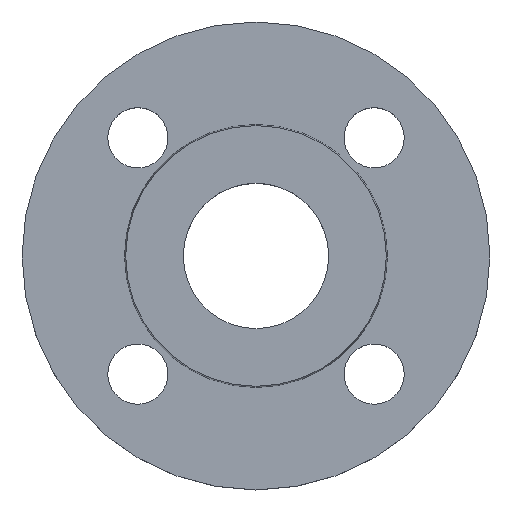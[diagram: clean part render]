
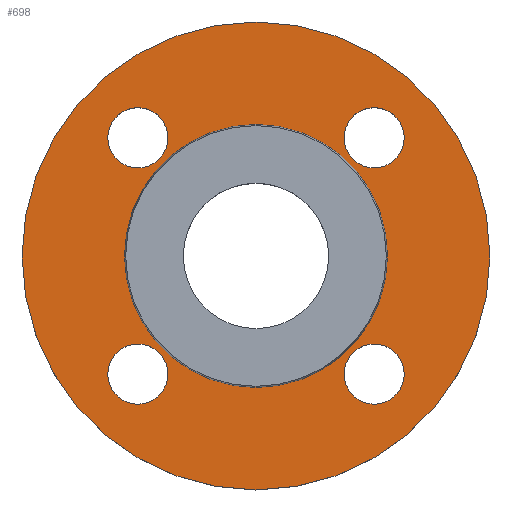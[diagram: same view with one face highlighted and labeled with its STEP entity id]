
A CAD part, top view. The second image highlights one B-rep face of the part: STEP entity #698.
In plain terms, the highlighted planar face has unit normal (0, 0, 1).
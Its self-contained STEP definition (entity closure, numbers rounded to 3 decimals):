
#5 = AXIS2_PLACEMENT_3D ( 'NONE', #682, #180, #395 ) ;
#14 = CIRCLE ( 'NONE', #316, 70. ) ;
#18 = CARTESIAN_POINT ( 'NONE',  ( -35.355, 35.355, -2. ) ) ;
#32 = EDGE_CURVE ( 'NONE', #604, #541, #406, .T. ) ;
#38 = CIRCLE ( 'NONE', #344, 9. ) ;
#39 = DIRECTION ( 'NONE',  ( 1., 0., 0. ) ) ;
#44 = ORIENTED_EDGE ( 'NONE', *, *, #531, .F. ) ;
#50 = CIRCLE ( 'NONE', #352, 9. ) ;
#54 = EDGE_LOOP ( 'NONE', ( #128, #415 ) ) ;
#56 = CARTESIAN_POINT ( 'NONE',  ( 39.353, 0., -2. ) ) ;
#57 = EDGE_CURVE ( 'NONE', #164, #590, #38, .T. ) ;
#66 = VERTEX_POINT ( 'NONE', #518 ) ;
#82 = VERTEX_POINT ( 'NONE', #347 ) ;
#88 = EDGE_LOOP ( 'NONE', ( #217, #396 ) ) ;
#91 = CARTESIAN_POINT ( 'NONE',  ( -44.355, 35.355, -2. ) ) ;
#92 = CARTESIAN_POINT ( 'NONE',  ( 70., 0., -2. ) ) ;
#101 = ORIENTED_EDGE ( 'NONE', *, *, #282, .T. ) ;
#104 = DIRECTION ( 'NONE',  ( -1., 0., 0. ) ) ;
#111 = FACE_BOUND ( 'NONE', #528, .T. ) ;
#119 = CIRCLE ( 'NONE', #426, 39.353 ) ;
#120 = AXIS2_PLACEMENT_3D ( 'NONE', #266, #493, #717 ) ;
#128 = ORIENTED_EDGE ( 'NONE', *, *, #472, .T. ) ;
#130 = DIRECTION ( 'NONE',  ( 0., 0., -1. ) ) ;
#132 = ORIENTED_EDGE ( 'NONE', *, *, #539, .T. ) ;
#138 = ORIENTED_EDGE ( 'NONE', *, *, #643, .T. ) ;
#143 = CARTESIAN_POINT ( 'NONE',  ( 35.355, -35.355, -2. ) ) ;
#144 = VERTEX_POINT ( 'NONE', #91 ) ;
#147 = DIRECTION ( 'NONE',  ( 0., 0., -1. ) ) ;
#149 = EDGE_CURVE ( 'NONE', #82, #66, #317, .T. ) ;
#154 = CARTESIAN_POINT ( 'NONE',  ( -70., 0., -2. ) ) ;
#158 = CARTESIAN_POINT ( 'NONE',  ( -35.355, -35.355, -2. ) ) ;
#162 = FACE_BOUND ( 'NONE', #686, .T. ) ;
#163 = CIRCLE ( 'NONE', #477, 9. ) ;
#164 = VERTEX_POINT ( 'NONE', #362 ) ;
#174 = CARTESIAN_POINT ( 'NONE',  ( 35.355, 35.355, -2. ) ) ;
#180 = DIRECTION ( 'NONE',  ( 0., 0., -1. ) ) ;
#199 = CARTESIAN_POINT ( 'NONE',  ( 0., 0., -2. ) ) ;
#217 = ORIENTED_EDGE ( 'NONE', *, *, #149, .T. ) ;
#228 = EDGE_LOOP ( 'NONE', ( #504, #132 ) ) ;
#232 = AXIS2_PLACEMENT_3D ( 'NONE', #143, #360, #589 ) ;
#233 = AXIS2_PLACEMENT_3D ( 'NONE', #302, #533, #39 ) ;
#235 = CARTESIAN_POINT ( 'NONE',  ( 35.355, -35.355, -2. ) ) ;
#236 = VERTEX_POINT ( 'NONE', #262 ) ;
#237 = DIRECTION ( 'NONE',  ( 0., 0., -1. ) ) ;
#262 = CARTESIAN_POINT ( 'NONE',  ( -26.355, -35.355, -2. ) ) ;
#266 = CARTESIAN_POINT ( 'NONE',  ( 0., 0., -2. ) ) ;
#269 = DIRECTION ( 'NONE',  ( 0., 0., 1. ) ) ;
#282 = EDGE_CURVE ( 'NONE', #301, #444, #527, .T. ) ;
#297 = VERTEX_POINT ( 'NONE', #376 ) ;
#299 = VERTEX_POINT ( 'NONE', #551 ) ;
#301 = VERTEX_POINT ( 'NONE', #497 ) ;
#302 = CARTESIAN_POINT ( 'NONE',  ( 35.355, 35.355, -2. ) ) ;
#316 = AXIS2_PLACEMENT_3D ( 'NONE', #199, #418, #646 ) ;
#317 = CIRCLE ( 'NONE', #233, 9. ) ;
#322 = FACE_OUTER_BOUND ( 'NONE', #616, .T. ) ;
#328 = CIRCLE ( 'NONE', #652, 9. ) ;
#343 = CIRCLE ( 'NONE', #669, 9. ) ;
#344 = AXIS2_PLACEMENT_3D ( 'NONE', #235, #461, #685 ) ;
#346 = DIRECTION ( 'NONE',  ( 1., 0., 0. ) ) ;
#347 = CARTESIAN_POINT ( 'NONE',  ( 44.355, 35.355, -2. ) ) ;
#352 = AXIS2_PLACEMENT_3D ( 'NONE', #649, #147, #363 ) ;
#360 = DIRECTION ( 'NONE',  ( 0., 0., -1. ) ) ;
#362 = CARTESIAN_POINT ( 'NONE',  ( 44.355, -35.355, -2. ) ) ;
#363 = DIRECTION ( 'NONE',  ( 1., 0., 0. ) ) ;
#364 = AXIS2_PLACEMENT_3D ( 'NONE', #56, #269, #498 ) ;
#373 = CARTESIAN_POINT ( 'NONE',  ( 0., 0., -2. ) ) ;
#374 = DIRECTION ( 'NONE',  ( 0., 0., -1. ) ) ;
#376 = CARTESIAN_POINT ( 'NONE',  ( -44.355, -35.355, -2. ) ) ;
#378 = FACE_BOUND ( 'NONE', #54, .T. ) ;
#385 = EDGE_CURVE ( 'NONE', #66, #82, #561, .T. ) ;
#389 = DIRECTION ( 'NONE',  ( 0., 0., -1. ) ) ;
#395 = DIRECTION ( 'NONE',  ( -1., 0., 0. ) ) ;
#396 = ORIENTED_EDGE ( 'NONE', *, *, #385, .T. ) ;
#406 = CIRCLE ( 'NONE', #5, 70. ) ;
#415 = ORIENTED_EDGE ( 'NONE', *, *, #495, .T. ) ;
#418 = DIRECTION ( 'NONE',  ( 0., 0., -1. ) ) ;
#419 = ORIENTED_EDGE ( 'NONE', *, *, #586, .T. ) ;
#426 = AXIS2_PLACEMENT_3D ( 'NONE', #373, #602, #104 ) ;
#444 = VERTEX_POINT ( 'NONE', #572 ) ;
#446 = ORIENTED_EDGE ( 'NONE', *, *, #32, .F. ) ;
#461 = DIRECTION ( 'NONE',  ( 0., 0., -1. ) ) ;
#463 = DIRECTION ( 'NONE',  ( 1., 0., 0. ) ) ;
#472 = EDGE_CURVE ( 'NONE', #299, #144, #343, .T. ) ;
#477 = AXIS2_PLACEMENT_3D ( 'NONE', #631, #130, #346 ) ;
#493 = DIRECTION ( 'NONE',  ( 0., 0., -1. ) ) ;
#495 = EDGE_CURVE ( 'NONE', #144, #299, #163, .T. ) ;
#497 = CARTESIAN_POINT ( 'NONE',  ( 39.353, 0., -2. ) ) ;
#498 = DIRECTION ( 'NONE',  ( 1., 0., 0. ) ) ;
#499 = ORIENTED_EDGE ( 'NONE', *, *, #665, .T. ) ;
#504 = ORIENTED_EDGE ( 'NONE', *, *, #57, .T. ) ;
#518 = CARTESIAN_POINT ( 'NONE',  ( 26.355, 35.355, -2. ) ) ;
#527 = CIRCLE ( 'NONE', #120, 39.353 ) ;
#528 = EDGE_LOOP ( 'NONE', ( #138, #101 ) ) ;
#531 = EDGE_CURVE ( 'NONE', #541, #604, #14, .T. ) ;
#533 = DIRECTION ( 'NONE',  ( 0., 0., -1. ) ) ;
#539 = EDGE_CURVE ( 'NONE', #590, #164, #641, .T. ) ;
#541 = VERTEX_POINT ( 'NONE', #92 ) ;
#551 = CARTESIAN_POINT ( 'NONE',  ( -26.355, 35.355, -2. ) ) ;
#552 = PLANE ( 'NONE',  #364 ) ;
#561 = CIRCLE ( 'NONE', #657, 9. ) ;
#572 = CARTESIAN_POINT ( 'NONE',  ( -39.353, 0., -2. ) ) ;
#586 = EDGE_CURVE ( 'NONE', #236, #297, #50, .T. ) ;
#589 = DIRECTION ( 'NONE',  ( 1., 0., 0. ) ) ;
#590 = VERTEX_POINT ( 'NONE', #594 ) ;
#594 = CARTESIAN_POINT ( 'NONE',  ( 26.355, -35.355, -2. ) ) ;
#602 = DIRECTION ( 'NONE',  ( 0., 0., -1. ) ) ;
#603 = DIRECTION ( 'NONE',  ( 1., 0., 0. ) ) ;
#604 = VERTEX_POINT ( 'NONE', #154 ) ;
#608 = FACE_BOUND ( 'NONE', #88, .T. ) ;
#616 = EDGE_LOOP ( 'NONE', ( #44, #446 ) ) ;
#621 = DIRECTION ( 'NONE',  ( 1., 0., 0. ) ) ;
#631 = CARTESIAN_POINT ( 'NONE',  ( -35.355, 35.355, -2. ) ) ;
#641 = CIRCLE ( 'NONE', #232, 9. ) ;
#643 = EDGE_CURVE ( 'NONE', #444, #301, #119, .T. ) ;
#646 = DIRECTION ( 'NONE',  ( -1., 0., 0. ) ) ;
#649 = CARTESIAN_POINT ( 'NONE',  ( -35.355, -35.355, -2. ) ) ;
#652 = AXIS2_PLACEMENT_3D ( 'NONE', #158, #374, #603 ) ;
#657 = AXIS2_PLACEMENT_3D ( 'NONE', #174, #389, #621 ) ;
#664 = FACE_BOUND ( 'NONE', #228, .T. ) ;
#665 = EDGE_CURVE ( 'NONE', #297, #236, #328, .T. ) ;
#669 = AXIS2_PLACEMENT_3D ( 'NONE', #18, #237, #463 ) ;
#682 = CARTESIAN_POINT ( 'NONE',  ( 0., 0., -2. ) ) ;
#685 = DIRECTION ( 'NONE',  ( 1., 0., 0. ) ) ;
#686 = EDGE_LOOP ( 'NONE', ( #419, #499 ) ) ;
#698 = ADVANCED_FACE ( 'NONE', ( #664, #162, #378, #608, #111, #322 ), #552, .T. ) ;
#717 = DIRECTION ( 'NONE',  ( -1., 0., 0. ) ) ;
